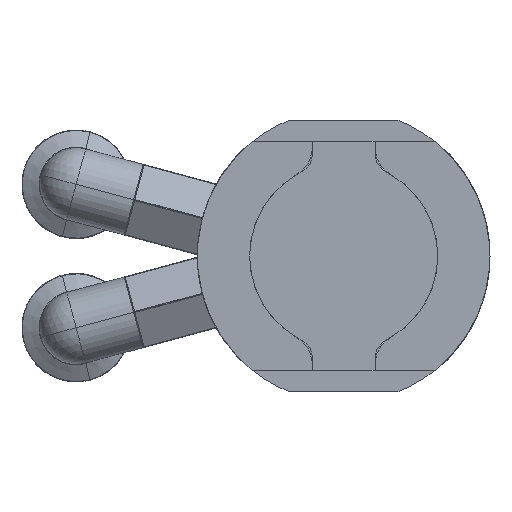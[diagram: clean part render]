
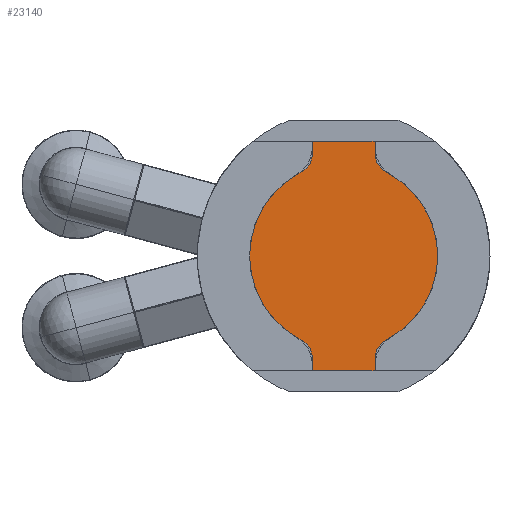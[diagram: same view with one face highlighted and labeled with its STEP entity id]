
A CAD part, front view. The second image highlights one B-rep face of the part: STEP entity #23140.
In plain terms, the highlighted planar face has unit normal (0, -1, 0).
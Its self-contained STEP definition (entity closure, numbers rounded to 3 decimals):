
#115 = DIRECTION ( 'NONE',  ( 0., 0., 1. ) ) ;
#155 = DIRECTION ( 'NONE',  ( 0., -1., 0. ) ) ;
#346 = CARTESIAN_POINT ( 'NONE',  ( -3., 0., -11. ) ) ;
#396 = CARTESIAN_POINT ( 'NONE',  ( 3., 0., 11. ) ) ;
#707 = CARTESIAN_POINT ( 'NONE',  ( -3., 0., 0. ) ) ;
#1003 = CARTESIAN_POINT ( 'NONE',  ( -5., 0., -9.798 ) ) ;
#1429 = VERTEX_POINT ( 'NONE', #396 ) ;
#1727 = EDGE_CURVE ( 'NONE', #13103, #1978, #6400, .T. ) ;
#1754 = FACE_OUTER_BOUND ( 'NONE', #19140, .T. ) ;
#1833 = DIRECTION ( 'NONE',  ( 0., 1., 0. ) ) ;
#1978 = VERTEX_POINT ( 'NONE', #19680 ) ;
#2061 = DIRECTION ( 'NONE',  ( 1., 0., 0. ) ) ;
#2161 = ORIENTED_EDGE ( 'NONE', *, *, #9487, .T. ) ;
#2273 = VERTEX_POINT ( 'NONE', #18135 ) ;
#2282 = CARTESIAN_POINT ( 'NONE',  ( 0., 0., 0. ) ) ;
#4162 = VECTOR ( 'NONE', #9490, 1000. ) ;
#4195 = CARTESIAN_POINT ( 'NONE',  ( 3., 0., 0. ) ) ;
#4703 = EDGE_CURVE ( 'NONE', #2273, #11151, #19078, .T. ) ;
#4725 = CARTESIAN_POINT ( 'NONE',  ( 5., 0., -9.798 ) ) ;
#5111 = CARTESIAN_POINT ( 'NONE',  ( 5., 0., 9.798 ) ) ;
#5285 = ORIENTED_EDGE ( 'NONE', *, *, #11006, .T. ) ;
#5739 = EDGE_CURVE ( 'NONE', #13330, #2273, #21772, .T. ) ;
#5829 = CARTESIAN_POINT ( 'NONE',  ( -3., 0., 9.798 ) ) ;
#5850 = DIRECTION ( 'NONE',  ( 0., 0., -1. ) ) ;
#5906 = LINE ( 'NONE', #4195, #23410 ) ;
#6164 = VERTEX_POINT ( 'NONE', #16871 ) ;
#6202 = AXIS2_PLACEMENT_3D ( 'NONE', #4725, #10426, #10657 ) ;
#6400 = CIRCLE ( 'NONE', #22633, 2. ) ;
#6529 = DIRECTION ( 'NONE',  ( 0., 0., -1. ) ) ;
#6550 = EDGE_CURVE ( 'NONE', #11151, #1429, #5906, .T. ) ;
#6636 = ORIENTED_EDGE ( 'NONE', *, *, #16244, .T. ) ;
#6771 = EDGE_CURVE ( 'NONE', #14584, #22047, #16684, .T. ) ;
#7362 = VERTEX_POINT ( 'NONE', #346 ) ;
#7654 = AXIS2_PLACEMENT_3D ( 'NONE', #2282, #155, #5850 ) ;
#8028 = CARTESIAN_POINT ( 'NONE',  ( -3., 0., 0. ) ) ;
#8101 = ORIENTED_EDGE ( 'NONE', *, *, #17683, .T. ) ;
#8218 = DIRECTION ( 'NONE',  ( 0., 0., 1. ) ) ;
#8382 = CARTESIAN_POINT ( 'NONE',  ( 0., 0., 0. ) ) ;
#8383 = DIRECTION ( 'NONE',  ( 0., 0., -1. ) ) ;
#8568 = CIRCLE ( 'NONE', #6202, 2. ) ;
#8737 = LINE ( 'NONE', #707, #20360 ) ;
#8807 = VECTOR ( 'NONE', #2061, 1000. ) ;
#8943 = VERTEX_POINT ( 'NONE', #9993 ) ;
#8986 = EDGE_CURVE ( 'NONE', #23621, #14584, #8737, .T. ) ;
#9248 = DIRECTION ( 'NONE',  ( 0., 0., 1. ) ) ;
#9251 = LINE ( 'NONE', #20796, #4162 ) ;
#9358 = ORIENTED_EDGE ( 'NONE', *, *, #6771, .T. ) ;
#9462 = ORIENTED_EDGE ( 'NONE', *, *, #1727, .T. ) ;
#9487 = EDGE_CURVE ( 'NONE', #22047, #13103, #23112, .T. ) ;
#9490 = DIRECTION ( 'NONE',  ( -1., 0., 0. ) ) ;
#9622 = CARTESIAN_POINT ( 'NONE',  ( -3., 0., 11. ) ) ;
#9876 = DIRECTION ( 'NONE',  ( 0., 0., -1. ) ) ;
#9993 = CARTESIAN_POINT ( 'NONE',  ( 3., 0., -11. ) ) ;
#10120 = DIRECTION ( 'NONE',  ( 0., -1., 0. ) ) ;
#10210 = CARTESIAN_POINT ( 'NONE',  ( -4.091, 0., -8.017 ) ) ;
#10426 = DIRECTION ( 'NONE',  ( 0., 1., 0. ) ) ;
#10657 = DIRECTION ( 'NONE',  ( 0., 0., 1. ) ) ;
#10746 = AXIS2_PLACEMENT_3D ( 'NONE', #5111, #13042, #12934 ) ;
#11006 = EDGE_CURVE ( 'NONE', #6164, #13330, #8568, .T. ) ;
#11087 = ORIENTED_EDGE ( 'NONE', *, *, #14282, .T. ) ;
#11151 = VERTEX_POINT ( 'NONE', #16979 ) ;
#11444 = CARTESIAN_POINT ( 'NONE',  ( 4.091, 0., -8.017 ) ) ;
#11527 = PLANE ( 'NONE',  #14789 ) ;
#11580 = ORIENTED_EDGE ( 'NONE', *, *, #4703, .T. ) ;
#12501 = ORIENTED_EDGE ( 'NONE', *, *, #6550, .T. ) ;
#12934 = DIRECTION ( 'NONE',  ( 0., 0., 1. ) ) ;
#13042 = DIRECTION ( 'NONE',  ( 0., 1., 0. ) ) ;
#13059 = CARTESIAN_POINT ( 'NONE',  ( 3., 0., 0. ) ) ;
#13103 = VERTEX_POINT ( 'NONE', #10210 ) ;
#13330 = VERTEX_POINT ( 'NONE', #11444 ) ;
#13455 = AXIS2_PLACEMENT_3D ( 'NONE', #8382, #10120, #6529 ) ;
#13599 = ORIENTED_EDGE ( 'NONE', *, *, #5739, .T. ) ;
#13723 = ORIENTED_EDGE ( 'NONE', *, *, #8986, .T. ) ;
#13781 = CARTESIAN_POINT ( 'NONE',  ( -4.091, 0., 8.017 ) ) ;
#13926 = AXIS2_PLACEMENT_3D ( 'NONE', #21249, #1833, #8218 ) ;
#14282 = EDGE_CURVE ( 'NONE', #8943, #6164, #14675, .T. ) ;
#14584 = VERTEX_POINT ( 'NONE', #5829 ) ;
#14675 = LINE ( 'NONE', #13059, #16551 ) ;
#14789 = AXIS2_PLACEMENT_3D ( 'NONE', #18726, #22437, #115 ) ;
#16244 = EDGE_CURVE ( 'NONE', #1978, #7362, #17463, .T. ) ;
#16551 = VECTOR ( 'NONE', #22238, 1000. ) ;
#16684 = CIRCLE ( 'NONE', #13926, 2. ) ;
#16871 = CARTESIAN_POINT ( 'NONE',  ( 3., 0., -9.798 ) ) ;
#16979 = CARTESIAN_POINT ( 'NONE',  ( 3., 0., 9.798 ) ) ;
#17042 = CARTESIAN_POINT ( 'NONE',  ( 0., 0., -11. ) ) ;
#17463 = LINE ( 'NONE', #8028, #19209 ) ;
#17683 = EDGE_CURVE ( 'NONE', #7362, #8943, #20758, .T. ) ;
#17856 = DIRECTION ( 'NONE',  ( 0., 0., 1. ) ) ;
#18135 = CARTESIAN_POINT ( 'NONE',  ( 4.091, 0., 8.017 ) ) ;
#18726 = CARTESIAN_POINT ( 'NONE',  ( 0., 0., 0. ) ) ;
#19044 = ORIENTED_EDGE ( 'NONE', *, *, #24337, .T. ) ;
#19078 = CIRCLE ( 'NONE', #10746, 2. ) ;
#19140 = EDGE_LOOP ( 'NONE', ( #2161, #9462, #6636, #8101, #11087, #5285, #13599, #11580, #12501, #19044, #13723, #9358 ) ) ;
#19209 = VECTOR ( 'NONE', #9876, 1000. ) ;
#19680 = CARTESIAN_POINT ( 'NONE',  ( -3., 0., -9.798 ) ) ;
#20360 = VECTOR ( 'NONE', #8383, 1000. ) ;
#20758 = LINE ( 'NONE', #17042, #8807 ) ;
#20796 = CARTESIAN_POINT ( 'NONE',  ( 0., 0., 11. ) ) ;
#21249 = CARTESIAN_POINT ( 'NONE',  ( -5., 0., 9.798 ) ) ;
#21580 = DIRECTION ( 'NONE',  ( 0., 1., 0. ) ) ;
#21772 = CIRCLE ( 'NONE', #13455, 9. ) ;
#22047 = VERTEX_POINT ( 'NONE', #13781 ) ;
#22238 = DIRECTION ( 'NONE',  ( 0., 0., 1. ) ) ;
#22437 = DIRECTION ( 'NONE',  ( 0., 1., 0. ) ) ;
#22633 = AXIS2_PLACEMENT_3D ( 'NONE', #1003, #21580, #17856 ) ;
#23112 = CIRCLE ( 'NONE', #7654, 9. ) ;
#23140 = ADVANCED_FACE ( 'NONE', ( #1754 ), #11527, .F. ) ;
#23410 = VECTOR ( 'NONE', #9248, 1000. ) ;
#23621 = VERTEX_POINT ( 'NONE', #9622 ) ;
#24337 = EDGE_CURVE ( 'NONE', #1429, #23621, #9251, .T. ) ;
